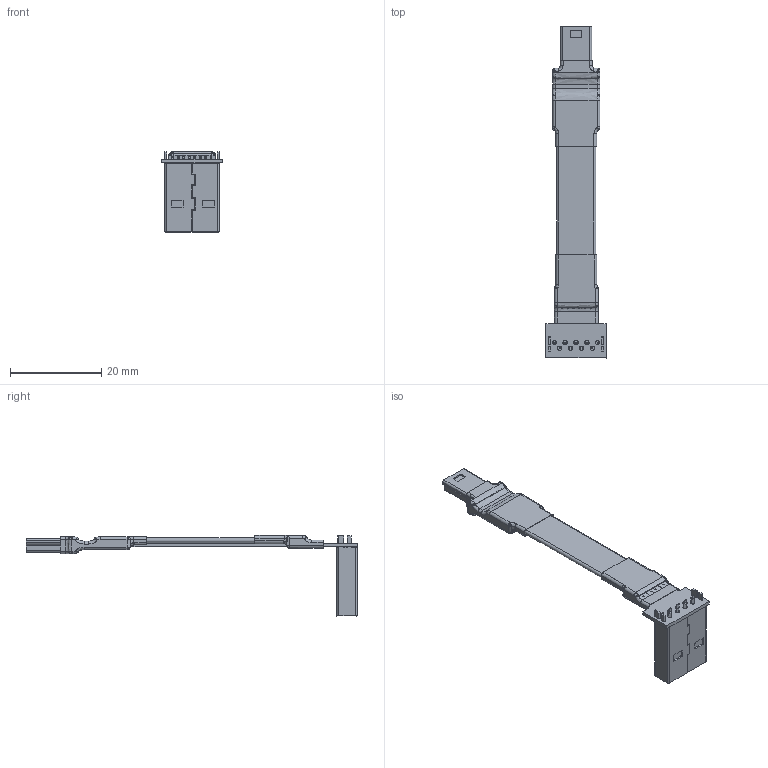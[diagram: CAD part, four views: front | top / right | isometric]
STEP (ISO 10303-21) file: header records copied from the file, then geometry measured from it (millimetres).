
FILE_DESCRIPTION(('Open CASCADE Model'),'2;1');
FILE_NAME('Open CASCADE Shape Model','2026-01-04T16:39:28',('Author'),( 'Open CASCADE'),'Open CASCADE STEP processor 7.5','Open CASCADE 7.5' ,'Unknown');
FILE_SCHEMA(('AUTOMOTIVE_DESIGN { 1 0 10303 214 1 1 1 1 }'));
Length unit declared in the file: millimetre
Products named in the file (47): PCB; Board; Open CASCADE STEP translator 7.5 3.1.1; Designator28; MINI USB B M 5PÒ»ÌåÊ½¶Ë×Ó½Å¼Ó³¤Ç°ÎåºóÎå; Designator45; USB ¹«ͷ 20211210£¨2£©; Free-Models; UN1 13P ƽֱɈ̵¹ڠ20260104_RGB4408131; USB 13P bʽɈ̵¹ڠ20251229_RGB4408131; cable13-US2A
Assembly tree (46 placements, depth 3):
  PCB
    Board
      Open CASCADE STEP translator 7.5 3.1.1
    Designator28
      MINI USB B M 5PÒ»ÌåÊ½¶Ë×Ó½Å¼Ó³¤Ç°ÎåºóÎå
      MINI USB B M 5PÒ»ÌåÊ½¶Ë×Ó½Å¼Ó³¤Ç°ÎåºóÎå
      MINI USB B M 5PÒ»ÌåÊ½¶Ë×Ó½Å¼Ó³¤Ç°ÎåºóÎå
      MINI USB B M 5PÒ»ÌåÊ½¶Ë×Ó½Å¼Ó³¤Ç°ÎåºóÎå
    Designator45
      USB ¹«ͷ 20211210£¨2£©
      USB ¹«ͷ 20211210£¨2£©
      USB ¹«ͷ 20211210£¨2£©
      USB ¹«ͷ 20211210£¨2£©
      USB ¹«ͷ 20211210£¨2£©
      USB ¹«ͷ 20211210£¨2£©
      USB ¹«ͷ 20211210£¨2£©
      USB ¹«ͷ 20211210£¨2£©
    Free-Models
      UN1 13P ƽֱɈ̵¹ڠ20260104_RGB4408131
      USB 13P bʽɈ̵¹ڠ20251229_RGB4408131
      cable13-US2A
      cable13-US2A
      cable13-US2A
      cable13-US2A
      cable13-US2A
      cable13-US2A
      cable13-US2A
      cable13-US2A
      cable13-US2A
      cable13-US2A
      cable13-US2A
      cable13-US2A
      cable13-US2A
      cable13-US2A
      cable13-US2A
      cable13-US2A
      cable13-US2A
      cable13-US2A
      cable13-US2A
      cable13-US2A
      cable13-US2A
      cable13-US2A
      cable13-US2A
      cable13-US2A
      cable13-US2A
      cable13-US2A
      cable13-US2A
Bounding box: 13.2 x 72.92 x 17.8 mm (x, y, z)
Volume: 1193 mm3; surface area: 5962.1 mm2
Topology: 41 solids, 42 shells, 942 faces, 2318 edges, 1431 vertices
Faces by surface type: plane 486, cylinder 270, bspline 122, offset 34, torus 30
Full cylindrical faces by diameter (mm): 0.4 x65, 0.55 x26, 0.85 x2, 0.95 x7
Entity records: 67645 total; most frequent: CARTESIAN_POINT 40518, ORIENTED_EDGE 4548, DIRECTION 3914, EDGE_CURVE 2274, VERTEX_POINT 1431, LINE 1314, VECTOR 1314, AXIS2_PLACEMENT_3D 1300
